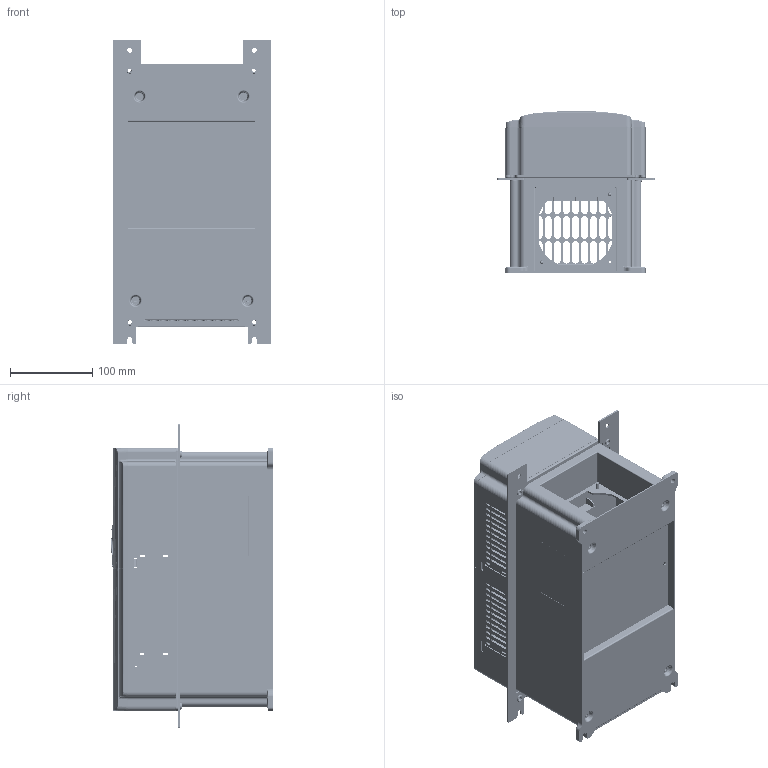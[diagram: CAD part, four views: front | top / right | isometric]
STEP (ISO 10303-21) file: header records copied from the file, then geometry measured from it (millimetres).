
FILE_DESCRIPTION((''),'2;1');
FILE_NAME('GD200A-015G-4_ASM','2017-03-14T',('Administrator'),(''),'PRO/ENGINEER BY PARAMETRIC TECHNOLOGY CORPORATION, 2010100','PRO/ENGINEER BY PARAMETRIC TECHNOLOGY CORPORATION, 2010100','');
FILE_SCHEMA(('CONFIG_CONTROL_DESIGN'));
Products named in the file (21): 80740009; 80740092; 80310003; B36299011; B36711560; 80380188; S-M5-ZC; 80380188_ASM; 80380189; 80380189_ASM; 40800027_ASM; 80880121; 80810038; 80810039; GD200_FILM; 80740119; 86400026; 86400027; 80810038SY; 40810064_ASM; GD200A-015G-4_ASM
Assembly tree (25 placements, depth 4):
  GD200A-015G-4_ASM
    80740009
    80740092
    80310003
    B36299011
    B36711560
    40800027_ASM
      80380188_ASM
        80380188
        S-M5-ZC  x2
      80380189_ASM
        80380189
        S-M5-ZC  x2
    80880121
    80810038
    80810039
    GD200_FILM
    80740119
    40810064_ASM
      80810038
      80740119
      86400026
      86400027
      80810038SY
Bounding box: 191.2 x 196.52 x 370 mm (x, y, z)
Volume: 1153192.1 mm3; surface area: 1030512.7 mm2
Topology: 18 solids, 18 shells, 7603 faces, 21987 edges, 14266 vertices
Faces by surface type: plane 4818, cylinder 1682, extrusion 421, bspline 348, cone 172, torus 154, sphere 8
Entity records: 224168 total; most frequent: CARTESIAN_POINT 66617, ORIENTED_EDGE 34636, DIRECTION 29791, EDGE_CURVE 17318, VECTOR 13315, LINE 12975, VERTEX_POINT 11238, AXIS2_PLACEMENT_3D 8238
